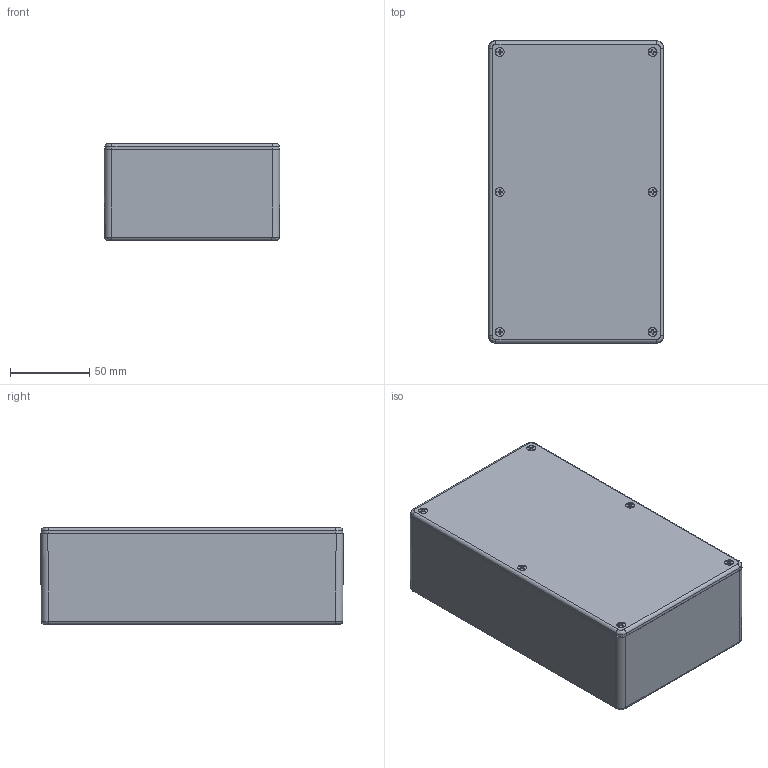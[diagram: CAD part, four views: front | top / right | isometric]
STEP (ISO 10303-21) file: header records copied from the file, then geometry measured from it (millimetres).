
FILE_DESCRIPTION(/* description */ (''),/* implementation_level */ '2;1');
FILE_NAME(/* name */ 'E:\Eng\Customer Service\Drawings\1591\3D Files\1591E\1591E.stp',/* time_stamp */ '2019-04-30T12:43:48-04:00',/* author */ ('mbeerman'),/* organization */ (''),/* preprocessor_version */ 'ST-DEVELOPER v17.2',/* originating_system */ 'Autodesk Inventor 2019',/* authorisation */ '');
FILE_SCHEMA (('AUTOMOTIVE_DESIGN { 1 0 10303 214 3 1 1 }'));
Products named in the file (5): 1591E; 1591E Box; 1591E Lid; SC500 (screw M3-0.5X 10mm FH); Insert
Assembly tree (14 placements, depth 2):
  1591E
    1591E Box
    1591E Lid
    SC500 (screw M3-0.5X 10mm FH)  x6
    Insert  x6
Bounding box: 110.6 x 190.4 x 60.8 mm (x, y, z)
Volume: 195295.6 mm3; surface area: 174764.2 mm2
Topology: 14 solids, 14 shells, 2178 faces, 6076 edges, 4004 vertices
Faces by surface type: plane 725, cylinder 715, bspline 574, cone 122, torus 42
Full cylindrical faces by diameter (mm): 2.464 x6, 2.91 x6, 3.81 x18, 3.912 x6, 5.5 x6
Entity records: 47214 total; most frequent: CARTESIAN_POINT 12862, ORIENTED_EDGE 7512, DIRECTION 6706, EDGE_CURVE 3756, VERTEX_POINT 2444, AXIS2_PLACEMENT_3D 2292, LINE 2122, VECTOR 2122
